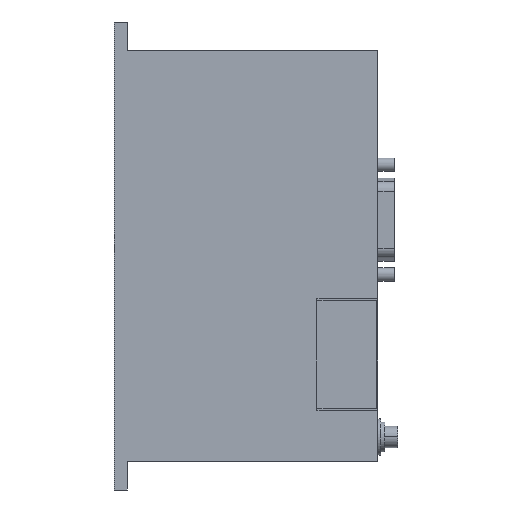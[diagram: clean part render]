
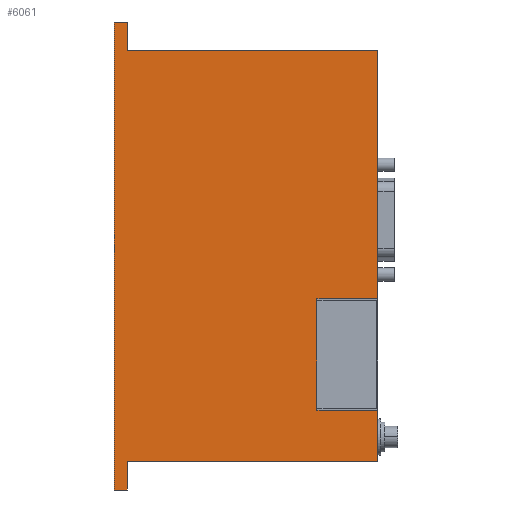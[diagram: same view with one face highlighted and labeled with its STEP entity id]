
A CAD part, front view. The second image highlights one B-rep face of the part: STEP entity #6061.
In plain terms, the highlighted planar face has unit normal (0, -1, 0).
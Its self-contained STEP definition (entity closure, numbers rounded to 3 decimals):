
#5236=CARTESIAN_POINT('POINT165220',(4.,-15.,3.5));
#5237=VERTEX_POINT('VERTEX165220',#5236);
#5244=CARTESIAN_POINT('POINT165221',(4.,-15.,-5.));
#5245=VERTEX_POINT('VERTEX165221',#5244);
#5246=CARTESIAN_POINT('POS278969',(4.,-15.,29.75));
#5247=DIRECTION('DIR415785',(0.,0.,1.));
#5248=VECTOR('VEC142153',#5247,1.);
#5249=LINE('STRAIGHT142153',#5246,#5248);
#5250=EDGE_CURVE('EDGE256133',#5245,#5237,#5249,.T.);
#5264=CARTESIAN_POINT('POINT165222',(0.,-15.,-5.));
#5265=VERTEX_POINT('VERTEX165222',#5264);
#5266=CARTESIAN_POINT('POS278971',(40.,-15.,-5.));
#5267=DIRECTION('DIR415788',(-1.,0.,0.));
#5268=VECTOR('VEC142154',#5267,1.);
#5269=LINE('STRAIGHT142154',#5266,#5268);
#5270=EDGE_CURVE('EDGE256135',#5245,#5265,#5269,.T.);
#5306=CARTESIAN_POINT('POINT165223',(0.,-15.,137.));
#5307=VERTEX_POINT('VERTEX165223',#5306);
#5308=CARTESIAN_POINT('POS278973',(0.,-15.,66.));
#5309=DIRECTION('DIR415790',(0.,0.,-1.));
#5310=VECTOR('VEC142156',#5309,1.);
#5311=LINE('STRAIGHT142156',#5308,#5310);
#5312=EDGE_CURVE('EDGE256138',#5307,#5265,#5311,.T.);
#5326=CARTESIAN_POINT('POINT165224',(4.,-15.,137.));
#5327=VERTEX_POINT('VERTEX165224',#5326);
#5328=CARTESIAN_POINT('POS278975',(40.,-15.,137.));
#5329=DIRECTION('DIR415793',(1.,0.,0.));
#5330=VECTOR('VEC142157',#5329,1.);
#5331=LINE('STRAIGHT142157',#5328,#5330);
#5332=EDGE_CURVE('EDGE256140',#5307,#5327,#5331,.T.);
#5341=CARTESIAN_POINT('POINT165225',(4.,-15.,128.5));
#5342=VERTEX_POINT('VERTEX165225',#5341);
#5343=CARTESIAN_POINT('POS278976',(4.,-15.,102.25));
#5344=DIRECTION('DIR415794',(0.,0.,1.));
#5345=VECTOR('VEC142158',#5344,1.);
#5346=LINE('STRAIGHT142158',#5343,#5345);
#5347=EDGE_CURVE('EDGE256142',#5342,#5327,#5346,.T.);
#5487=CARTESIAN_POINT('POINT165232',(61.5,-15.,53.));
#5488=VERTEX_POINT('VERTEX165232',#5487);
#5495=CARTESIAN_POINT('POINT165233',(61.5,-15.,19.235));
#5496=VERTEX_POINT('VERTEX165233',#5495);
#5497=CARTESIAN_POINT('POS278992',(61.5,-15.,51.059));
#5498=DIRECTION('DIR415814',(0.,0.,1.));
#5499=VECTOR('VEC142170',#5498,1.);
#5500=LINE('STRAIGHT142170',#5497,#5499);
#5501=EDGE_CURVE('EDGE256154',#5496,#5488,#5500,.T.);
#5939=CARTESIAN_POINT('POINT165249',(80.,-15.,128.5));
#5940=VERTEX_POINT('VERTEX165249',#5939);
#5941=CARTESIAN_POINT('POS279029',(42.,-15.,128.5));
#5942=DIRECTION('DIR415866',(-1.,0.,0.));
#5943=VECTOR('VEC142192',#5942,1.);
#5944=LINE('STRAIGHT142192',#5941,#5943);
#5945=EDGE_CURVE('EDGE256185',#5940,#5342,#5944,.T.);
#5998=CARTESIAN_POINT('POINT165252',(80.,-15.,3.5));
#5999=VERTEX_POINT('VERTEX165252',#5998);
#6000=CARTESIAN_POINT('POS279036',(42.,-15.,3.5));
#6001=DIRECTION('DIR415875',(1.,0.,0.));
#6002=VECTOR('VEC142197',#6001,1.);
#6003=LINE('STRAIGHT142197',#6000,#6002);
#6004=EDGE_CURVE('EDGE256190',#5237,#5999,#6003,.T.);
#6022=CARTESIAN_POINT('POINT165253',(80.,-15.,53.));
#6023=VERTEX_POINT('VERTEX165253',#6022);
#6024=CARTESIAN_POINT('POS279039',(55.75,-15.,53.));
#6025=DIRECTION('DIR415879',(1.,0.,0.));
#6026=VECTOR('VEC142199',#6025,1.);
#6027=LINE('STRAIGHT142199',#6024,#6026);
#6028=EDGE_CURVE('EDGE256192',#5488,#6023,#6027,.T.);
#6029=ORIENTED_EDGE('COEDGE512483',*,*,#6028,.T.);
#6030=CARTESIAN_POINT('POS279040',(80.,-15.,66.));
#6031=DIRECTION('DIR415880',(0.,0.,-1.));
#6032=VECTOR('VEC142200',#6031,1.);
#6033=LINE('STRAIGHT142200',#6030,#6032);
#6034=EDGE_CURVE('EDGE256193',#5940,#6023,#6033,.T.);
#6035=ORIENTED_EDGE('COEDGE512484',*,*,#6034,.F.);
#6036=ORIENTED_EDGE('COEDGE512485',*,*,#5945,.T.);
#6037=ORIENTED_EDGE('COEDGE512486',*,*,#5347,.T.);
#6038=ORIENTED_EDGE('COEDGE512487',*,*,#5332,.F.);
#6039=ORIENTED_EDGE('COEDGE512488',*,*,#5312,.T.);
#6040=ORIENTED_EDGE('COEDGE512489',*,*,#5270,.F.);
#6041=ORIENTED_EDGE('COEDGE512490',*,*,#5250,.T.);
#6042=ORIENTED_EDGE('COEDGE512491',*,*,#6004,.T.);
#6043=CARTESIAN_POINT('POINT165254',(80.,-15.,19.235));
#6044=VERTEX_POINT('VERTEX165254',#6043);
#6045=EDGE_CURVE('EDGE256194',#6044,#5999,#6033,.T.);
#6046=ORIENTED_EDGE('COEDGE512492',*,*,#6045,.F.);
#6047=CARTESIAN_POINT('POS279041',(55.75,-15.,19.235));
#6048=DIRECTION('DIR415881',(-1.,0.,0.));
#6049=VECTOR('VEC142201',#6048,1.);
#6050=LINE('STRAIGHT142201',#6047,#6049);
#6051=EDGE_CURVE('EDGE256195',#6044,#5496,#6050,.T.);
#6052=ORIENTED_EDGE('COEDGE512493',*,*,#6051,.T.);
#6053=ORIENTED_EDGE('COEDGE512494',*,*,#5501,.T.);
#6054=EDGE_LOOP('NONE',(#6029,#6035,#6036,#6037,#6038,#6039,#6040,#6041,
   #6042,#6046,#6052,#6053));
#6055=FACE_BOUND('LOOP1',#6054,.T.);
#6056=CARTESIAN_POINT('POS279042',(40.,-15.,66.));
#6057=DIRECTION('DIR415882',(0.,1.,0.));
#6058=DIRECTION('DIR415883',(1.,0.,0.));
#6059=AXIS2_PLACEMENT_3D('AXIS136841',#6056,#6057,#6058);
#6060=PLANE('PLANE41746',#6059);
#6061=ADVANCED_FACE('FACE101936',(#6055),#6060,.F.);
